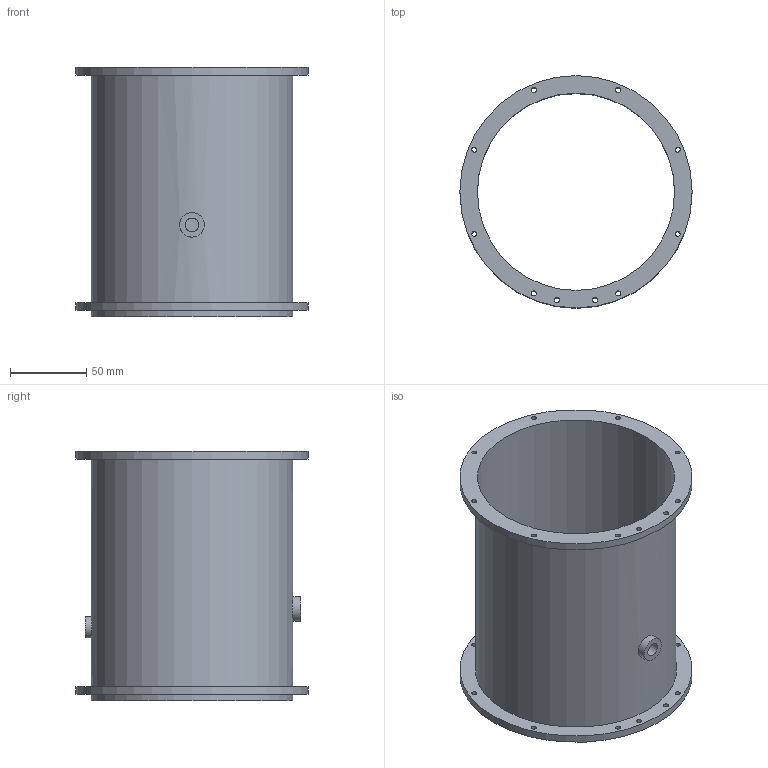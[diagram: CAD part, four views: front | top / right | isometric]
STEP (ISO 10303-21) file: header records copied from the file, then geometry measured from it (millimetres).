
FILE_DESCRIPTION(('Open CASCADE Model'),'2;1');
FILE_NAME('Open CASCADE Shape Model','2026-09-23T13:32:39',('Author'),( 'Open CASCADE'),'Open CASCADE STEP processor 7.9','Open CASCADE 7.9' ,'Unknown');
FILE_SCHEMA(('AUTOMOTIVE_DESIGN { 1 0 10303 214 1 1 1 1 }'));
Length unit declared in the file: millimetre
Products named in the file (1): Open CASCADE STEP translator 7.9 2
Bounding box: 152 x 152 x 163 mm (x, y, z)
Volume: 144954 mm3; surface area: 154591.8 mm2
Topology: 1 solids, 1 shells, 36 faces, 87 edges, 58 vertices
Faces by surface type: cylinder 29, plane 7
Full cylindrical faces by diameter (mm): 3.3 x20, 8.4 x1, 8.9 x1, 14 x1, 16 x1, 129 x1, 132 x2, 152 x2
Entity records: 3197 total; most frequent: CARTESIAN_POINT 1394, DIRECTION 332, ORIENTED_EDGE 174, PCURVE 174, DEFINITIONAL_REPRESENTATION 174, LINE 141, VECTOR 141, AXIS2_PLACEMENT_3D 91
